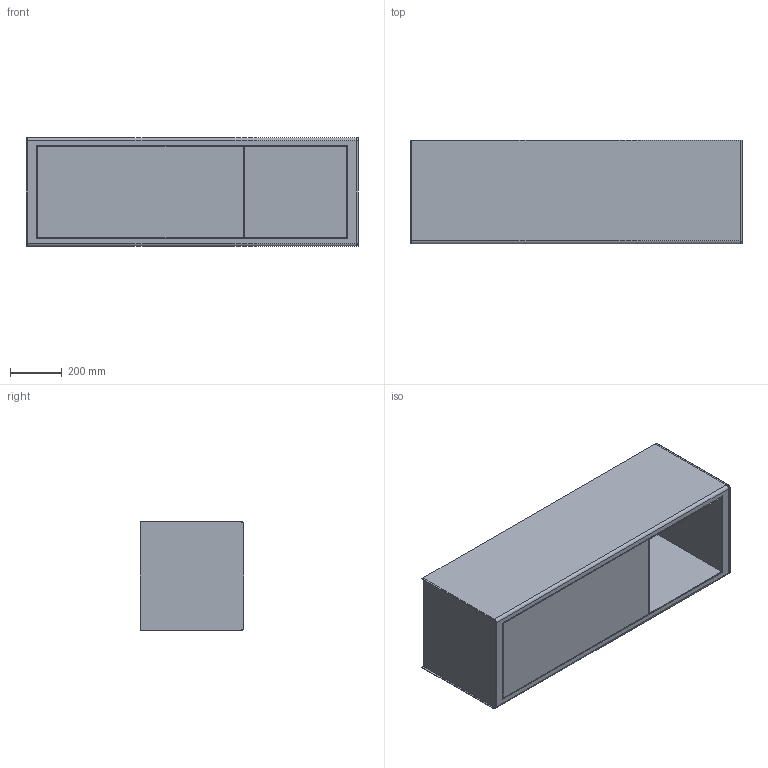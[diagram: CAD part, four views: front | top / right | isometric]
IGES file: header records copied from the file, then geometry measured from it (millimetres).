
Start section: Comment
Global section: file name: S36-H2-128-01.igs; native system:  By UGS Corp.; preprocessor: XPlus GENERIC/IGES 3.0; author: Author; organization: Title; date: 20141218.102450; units: inch
Bounding box: 1280 x 400 x 420 mm (x, y, z)
Surface area: 5578988.5 mm2 (no closed solid volume)
Topology: 0 solids, 0 shells, 40 faces, 204 edges, 204 vertices
Faces by surface type: bspline 40
